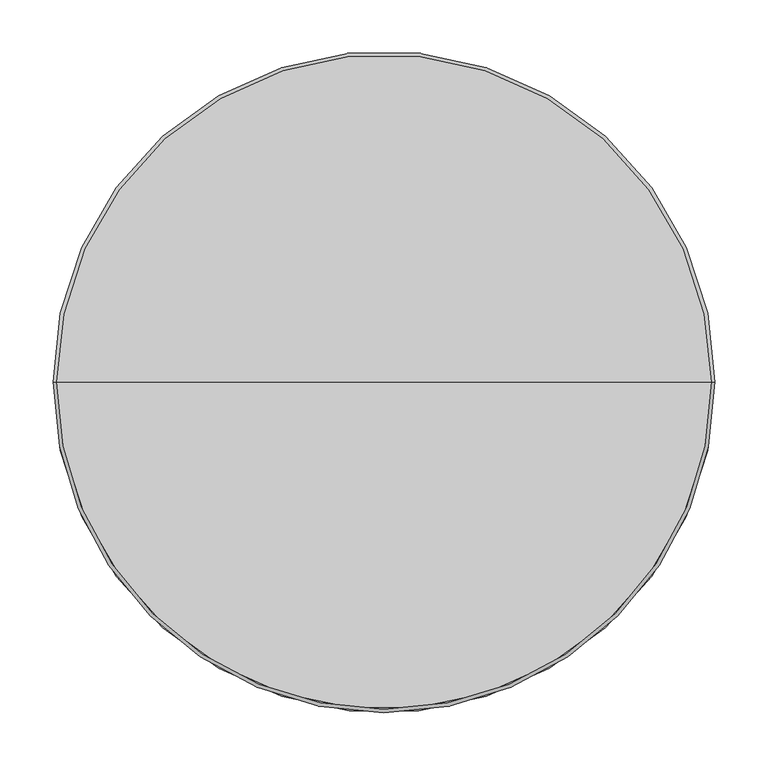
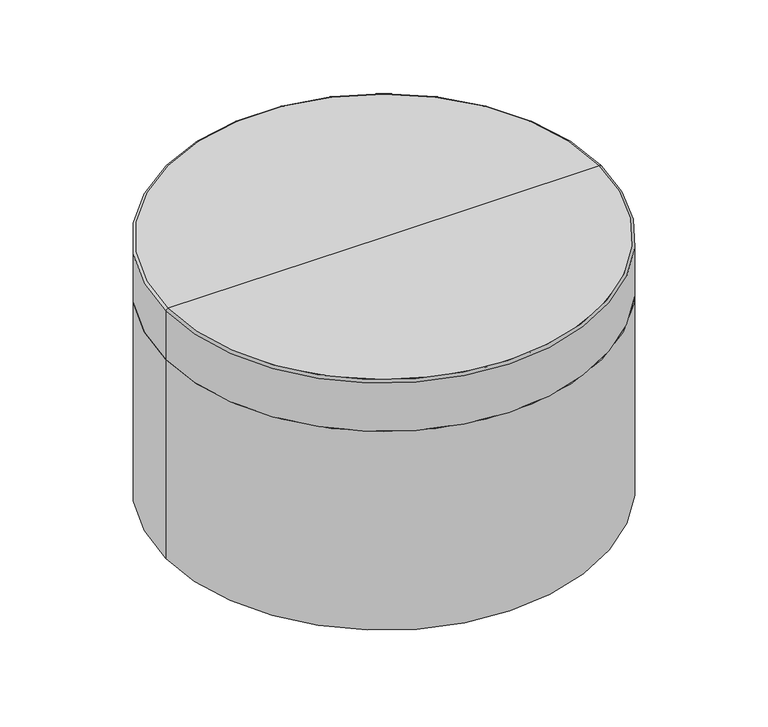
"""IFC4 building model written with IfcOpenShell, lengths in millimetres: furniture geometry, StanceHC-Drum_Table : 3-DRT24D16-U."""

from ifc_helpers import new_model, si_unit, point, frame, frame_2d, origin, origin_with_axes, place, context, project, spatial, circle_curve, ellipse_curve, trimmed, segment, composite_curve, outline, extrude, source, transform, mapped, element, save
from ifc_brep_helpers import plane_surface, cylinder_surface, revolved_surface, advanced_brep


def furniture_12132006(model_context):
    return source(origin(), model_context, "Body", "SolidModel", [
        extrude(outline(composite_curve([segment(trimmed(circle_curve(frame_2d((0.0, 250.1164845)), 12.7), [point((-12.7, 250.1164845))], [point((12.7, 250.1164845))], False, "CARTESIAN"), True, "CONTINUOUS"), segment(trimmed(circle_curve(frame_2d((0.0, 250.1164845)), 12.7), [point((12.7, 250.1164845))], [point((-12.7, 250.1164845))], False, "CARTESIAN"), True, "CONTINUOUS")], self_intersect=False)), origin_with_axes(), (0.0, 0.0, 1.0), 4.7625),
        extrude(outline(composite_curve([segment(trimmed(circle_curve(frame_2d((0.0, -250.1164845)), 12.7), [point((-12.7, -250.1164845))], [point((12.7, -250.1164845))], False, "CARTESIAN"), True, "CONTINUOUS"), segment(trimmed(circle_curve(frame_2d((0.0, -250.1164845)), 12.7), [point((12.7, -250.1164845))], [point((-12.7, -250.1164845))], False, "CARTESIAN"), True, "CONTINUOUS")], self_intersect=False)), origin_with_axes(), (0.0, 0.0, 1.0), 4.7625),
        extrude(outline(composite_curve([segment(trimmed(circle_curve(frame_2d((253.9996404, 0.0)), 12.7), [point((241.2996404, 0.0))], [point((266.6996404, 0.0))], False, "CARTESIAN"), True, "CONTINUOUS"), segment(trimmed(circle_curve(frame_2d((253.9996404, 0.0)), 12.7), [point((266.6996404, 0.0))], [point((241.2996404, 0.0))], False, "CARTESIAN"), True, "CONTINUOUS")], self_intersect=False)), origin_with_axes(), (0.0, 0.0, 1.0), 4.7625),
        extrude(outline(composite_curve([segment(trimmed(circle_curve(frame_2d((-253.9996404, 0.0)), 12.7), [point((-266.6996404, 0.0))], [point((-241.2996404, 0.0))], False, "CARTESIAN"), True, "CONTINUOUS"), segment(trimmed(circle_curve(frame_2d((-253.9996404, 0.0)), 12.7), [point((-241.2996404, 0.0))], [point((-266.6996404, 0.0))], False, "CARTESIAN"), True, "CONTINUOUS")], self_intersect=False)), origin_with_axes(), (0.0, 0.0, 1.0), 4.7625),
        advanced_brep(
        [(0.0, 0.0, 304.8), (311.15, 0.0, 304.8), (-311.15, 0.0, 304.8), (-311.15, 0.0, 4.7625), (311.15, 0.0, 4.7625), (0.0, 0.0, 4.7625)],
        [
            (0, 1),
            (1, 2, circle_curve(frame((0.0, 0.0, 304.8), z_axis=(0.0, 0.0, 1.0), x_axis=(1.0, 0.0, 0.0)), 311.15)),
            (2, 0),
            (2, 1, circle_curve(frame((0.0, 0.0, 304.8), z_axis=(0.0, 0.0, 1.0), x_axis=(1.0, 0.0, 0.0)), 311.15)),
            (3, 4, circle_curve(frame((0.0, 0.0, 4.7625), z_axis=(0.0, 0.0, -1.0), x_axis=(1.0, 0.0, 0.0)), 311.15)),
            (4, 5),
            (5, 3),
            (4, 3, circle_curve(frame((0.0, 0.0, 4.7625), z_axis=(0.0, 0.0, -1.0), x_axis=(1.0, 0.0, 0.0)), 311.15)),
            (1, 4),
            (3, 2),
        ],
        [
            plane_surface(frame((0.0, 0.0, 304.8), z_axis=(0.0, 0.0, 1.0), x_axis=(1.0, 0.0, 0.0))),
            plane_surface(frame((0.0, 0.0, 4.7625), z_axis=(0.0, 0.0, -1.0), x_axis=(1.0, 0.0, 0.0))),
            cylinder_surface(frame((0.0, 0.0, 457.2), z_axis=(0.0, 0.0, 1.0), x_axis=(1.0, 0.0, 0.0)), 311.15),
        ],
        [
            (0, [[1, 2, 3]]),
            (0, [[-3, 4, -1]]),
            (1, [[5, 6, 7]]),
            (1, [[8, -7, -6]]),
            (2, [[-2, 9, -5, 10]]),
            (2, [[-4, -10, -8, -9]]),
        ],
    ),
        advanced_brep(
        [(-311.15, 0.0, 304.8), (311.15, 0.0, 304.8), (0.0, 0.0, 304.8), (-311.15, 0.0, 377.8764933), (311.15, 0.0, 377.8764933), (-308.0264933, 0.0, 381.0), (308.0264933, 0.0, 381.0), (0.0, 0.0, 381.0)],
        [
            (0, 1, circle_curve(frame((0.0, 0.0, 304.8), z_axis=(0.0, 0.0, -1.0), x_axis=(1.0, 0.0, 0.0)), 311.15)),
            (1, 2),
            (2, 0),
            (1, 0, circle_curve(frame((0.0, 0.0, 304.8), z_axis=(0.0, 0.0, -1.0), x_axis=(1.0, 0.0, 0.0)), 311.15)),
            (3, 4, circle_curve(frame((0.0, 0.0, 377.8764933), z_axis=(0.0, 0.0, -1.0), x_axis=(1.0, 0.0, 0.0)), 311.15)),
            (4, 1),
            (0, 3),
            (4, 3, circle_curve(frame((0.0, 0.0, 377.8764933), z_axis=(0.0, 0.0, -1.0), x_axis=(1.0, 0.0, 0.0)), 311.15)),
            (5, 6, circle_curve(frame((0.0, 0.0, 381.0), z_axis=(0.0, 0.0, -1.0), x_axis=(1.0, 0.0, 0.0)), 308.0264933)),
            (6, 4, circle_curve(frame((308.0264933, 0.0, 377.8764933), z_axis=(0.0, 1.0, 0.0), x_axis=(1.0, 0.0, 0.0)), 3.1235067)),
            (3, 5, circle_curve(frame((-308.0264933, 0.0, 377.8764933), z_axis=(0.0, 1.0, 0.0), x_axis=(-1.0, 0.0, 0.0)), 3.1235067)),
            (6, 5, circle_curve(frame((0.0, 0.0, 381.0), z_axis=(0.0, 0.0, -1.0), x_axis=(1.0, 0.0, 0.0)), 308.0264933)),
            (7, 6),
            (5, 7),
        ],
        [
            plane_surface(frame((0.0, 0.0, 304.8), z_axis=(0.0, 0.0, -1.0), x_axis=(1.0, 0.0, 0.0))),
            cylinder_surface(frame((0.0, 0.0, 476.25), z_axis=(0.0, 0.0, 1.0), x_axis=(1.0, 0.0, 0.0)), 311.15),
            revolved_surface(trimmed(ellipse_curve(frame((308.0264933, 0.0, 377.8764933), z_axis=(0.0, -1.0, 0.0), x_axis=(1.0, 0.0, 0.0)), 3.1235067, 3.1235067), [point((311.15, 0.0, 377.8764933))], [point((308.0264933, 0.0, 381.0))], True, "CARTESIAN"), (0.0, 0.0, 476.25), (0.0, 0.0, 1.0)),
            plane_surface(frame((0.0, 0.0, 381.0), z_axis=(0.0, 0.0, 1.0), x_axis=(1.0, 0.0, 0.0))),
        ],
        [
            (0, [[1, 2, 3]]),
            (0, [[4, -3, -2]]),
            (1, [[5, 6, -1, 7]]),
            (1, [[8, -7, -4, -6]]),
            (2, [[9, 10, -5, 11]]),
            (2, [[12, -11, -8, -10]]),
            (3, [[13, -9, 14]]),
            (3, [[-14, -12, -13]]),
        ],
    ),
    ])


if __name__ == "__main__":
    model = new_model("IFC4")
    model_context = context("Model", 3, world=origin())
    ifc_project = project(units=[si_unit("LENGTHUNIT", "METRE", prefix="MILLI")], contexts=[model_context])
    site = spatial("IfcSite", under=ifc_project)
    building = spatial("IfcBuilding", under=site)
    placement = place(None, origin())
    furniture_shape = furniture_12132006(model_context)
    element("IfcFurniture", 1, ObjectType="StanceHC-Drum_Table : 3-DRT24D16-U", at=placement, inside=building, context=model_context, shape_type="MappedRepresentation", body=[
        mapped(furniture_shape, transform((0.0, 0.0, 0.0), x_axis=(1.0, 0.0, 0.0), y_axis=(0.0, 1.0, 0.0), z_axis=(0.0, 0.0, 1.0))),
    ])
    save(model, "model.ifc")
